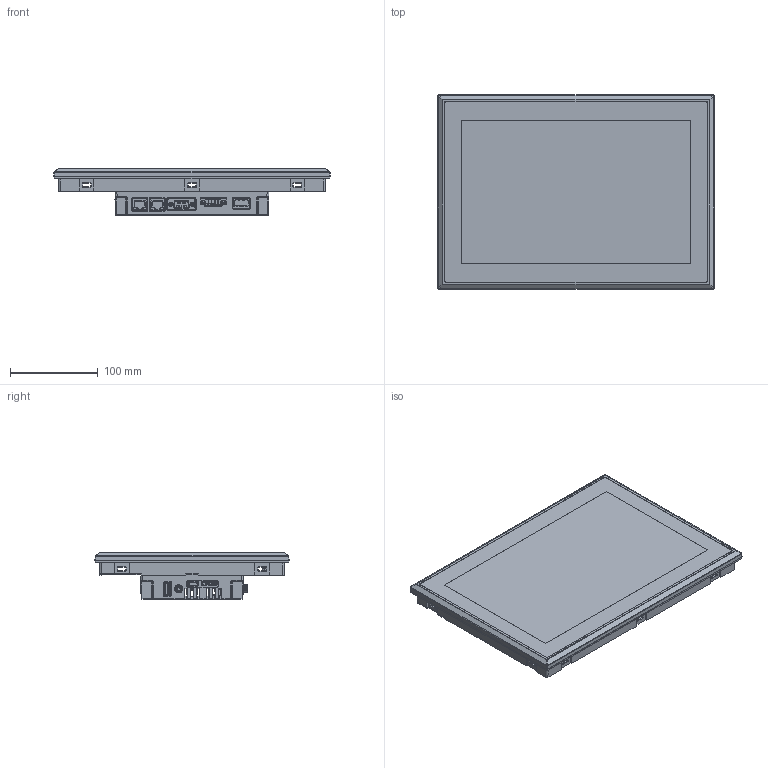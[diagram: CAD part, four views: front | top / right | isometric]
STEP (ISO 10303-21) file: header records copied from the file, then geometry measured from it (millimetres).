
FILE_DESCRIPTION (( 'STEP AP203' ), '1' );
FILE_NAME ('CM-eXT2-12W-DF.STEP', '2025-06-27T05:30:03', ( '' ), ( '' ), 'SwSTEP 2.0', 'SolidWorks 2024', '' );
FILE_SCHEMA (( 'CONFIG_CONTROL_DESIGN' ));
Products named in the file (1): CM-eXT2-12W-DF
Bounding box: 314.92 x 221.16 x 53.5 mm (x, y, z)
Volume: 516032.5 mm3; surface area: 402895.4 mm2
Topology: 1 solids, 13 shells, 6473 faces, 17597 edges, 11287 vertices
Faces by surface type: plane 3701, cylinder 1407, bspline 1003, cone 173, sphere 106, torus 83
Entity records: 245697 total; most frequent: CARTESIAN_POINT 89735, ORIENTED_EDGE 35090, DIRECTION 28380, EDGE_CURVE 17545, LINE 11864, VECTOR 11864, VERTEX_POINT 11269, AXIS2_PLACEMENT_3D 8258
